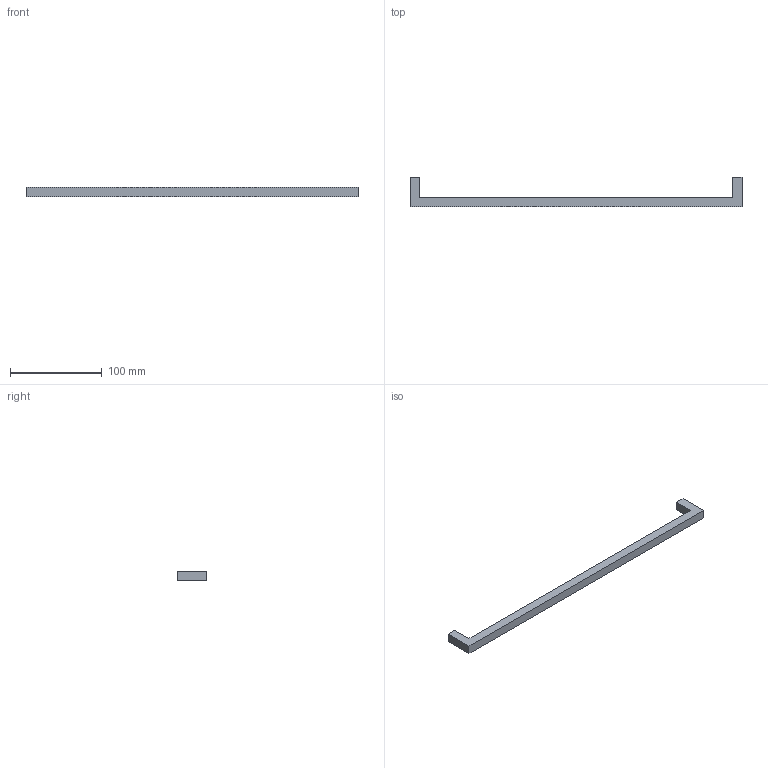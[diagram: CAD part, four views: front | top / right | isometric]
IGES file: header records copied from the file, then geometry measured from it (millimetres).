
Start section: Data from Parasolid IGES Translator 15.0.47, Copyright(c) 2006 Siemens P LM Software. All Rights Reserved.
Global section: file name: 1160022.igs; native system:  By UGS Corp.; preprocessor: XPlus GENERIC/IGES 3.0; author: Noname; organization: Noname; date: 20140122.181815; units: millimetre
Bounding box: 362 x 32 x 10 mm (x, y, z)
Surface area: 16691.3 mm2 (no closed solid volume)
Topology: 0 solids, 0 shells, 14 faces, 60 edges, 58 vertices
Faces by surface type: extrusion 12, revolution 2
